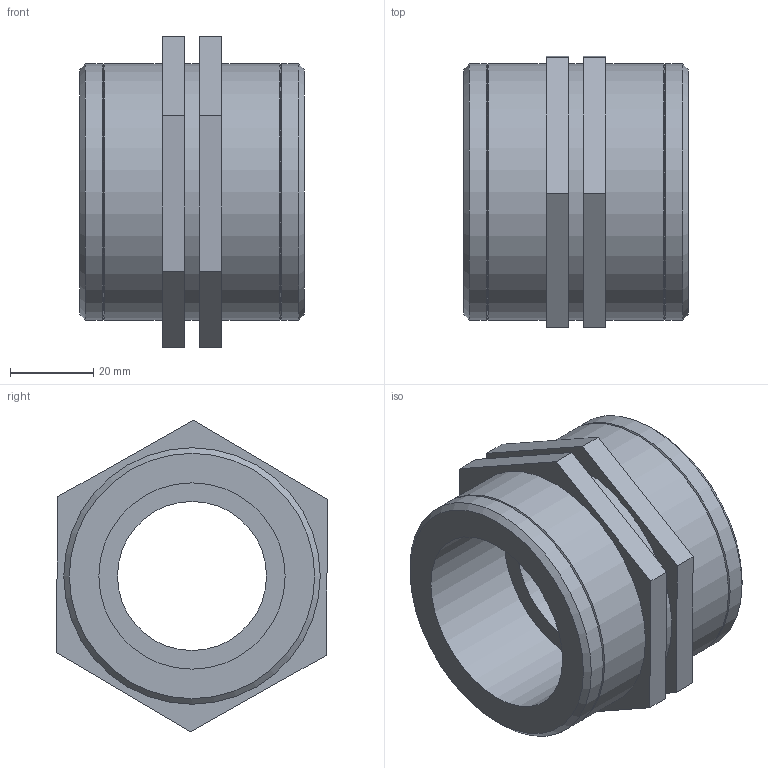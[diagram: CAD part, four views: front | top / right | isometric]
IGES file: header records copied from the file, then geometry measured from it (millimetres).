
Global section: file name: 050107015_0501070150A.ipt; native system: Autodesk Inventor 2015; preprocessor: unknown; author: KIM; date: 20170618.093105; units: millimetre
Bounding box: 54 x 65.39 x 75.05 mm (x, y, z)
Volume: 85478.4 mm3; surface area: 24857.7 mm2
Topology: 1 solids, 1 shells, 34 faces, 76 edges, 50 vertices
Faces by surface type: plane 20, cone 6, cylinder 5, revolution 3
Full cylindrical faces by diameter (mm): 61.75 x5
